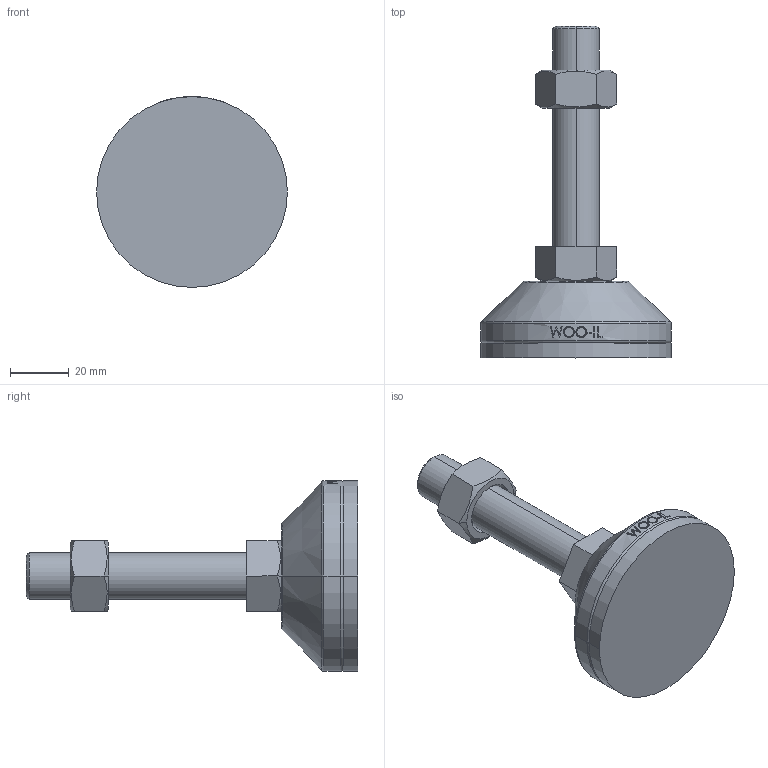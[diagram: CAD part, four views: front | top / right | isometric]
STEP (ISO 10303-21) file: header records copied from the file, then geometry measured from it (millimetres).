
FILE_DESCRIPTION (( 'STEP AP214' ), '1' );
FILE_NAME ('NHNR65-M16-75 (Æò).step', '2021-01-25T06:20:05', ( '' ), ( '' ), 'SwSTEP 2.0', 'SolidWorks 2019', '' );
FILE_SCHEMA (( 'AUTOMOTIVE_DESIGN' ));
Length unit declared in the file: millimetre
Products named in the file (2): NHNR65-M16-75 (ゎ)
Bounding box: 65 x 113 x 65 mm (x, y, z)
Volume: 93315.2 mm3; surface area: 24403.4 mm2
Topology: 4 solids, 4 shells, 100 faces, 229 edges, 146 vertices
Faces by surface type: plane 48, cylinder 16, bspline 16, cone 14, torus 6
Entity records: 4231 total; most frequent: CARTESIAN_POINT 2025, ORIENTED_EDGE 458, DIRECTION 401, EDGE_CURVE 229, AXIS2_PLACEMENT_3D 152, VERTEX_POINT 146, EDGE_LOOP 111, ADVANCED_FACE 100
